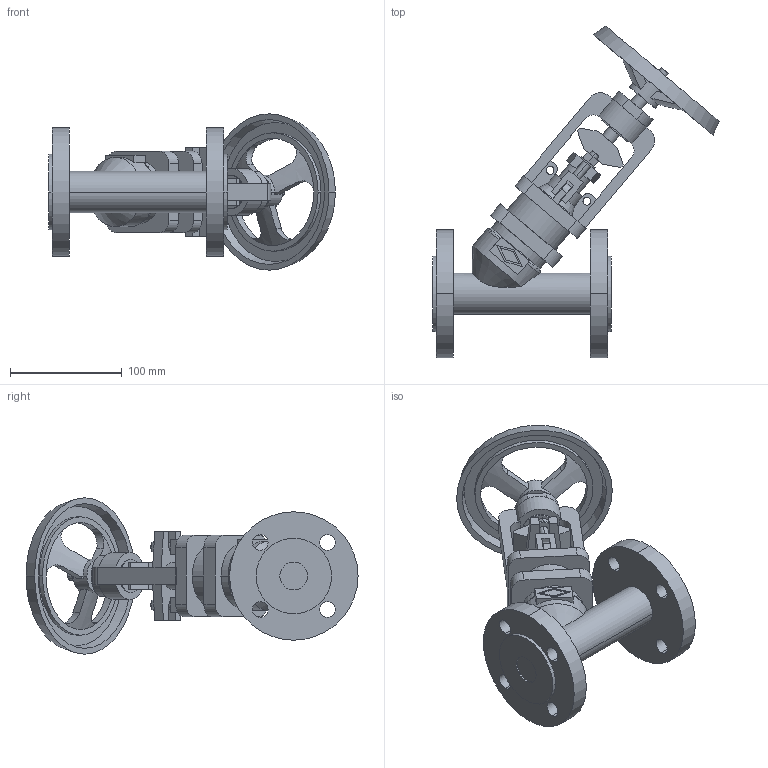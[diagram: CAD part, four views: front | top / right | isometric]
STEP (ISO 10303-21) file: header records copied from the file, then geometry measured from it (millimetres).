
FILE_DESCRIPTION(('OneSpaceDesigner STEP Export'),'2;1');
FILE_NAME('c000004403.stp','2010-05-10T 9:27:49',(''),(''),'OneSpace Designer STEP processor for AP214 (Solid Model)','OneSpace Modeling 15.50B 03-Nov-2007 (C) CoCreate Software GmbH','');
FILE_SCHEMA(('AUTOMOTIVE_DESIGN { 1 0 10303 214 1 1 1 1 }'));
Length unit declared in the file: millimetre
Products named in the file (1): 1
Bounding box: 256.84 x 297.36 x 140 mm (x, y, z)
Volume: 984734.8 mm3; surface area: 173116.3 mm2
Topology: 1 solids, 1 shells, 288 faces, 751 edges, 492 vertices
Faces by surface type: plane 148, cylinder 107, cone 22, torus 11
Entity records: 11076 total; most frequent: CARTESIAN_POINT 2006, ORIENTED_EDGE 1502, DIRECTION 1256, EDGE_CURVE 751, VERTEX_POINT 492, VECTOR 434, LINE 434, AXIS2_PLACEMENT_3D 411
